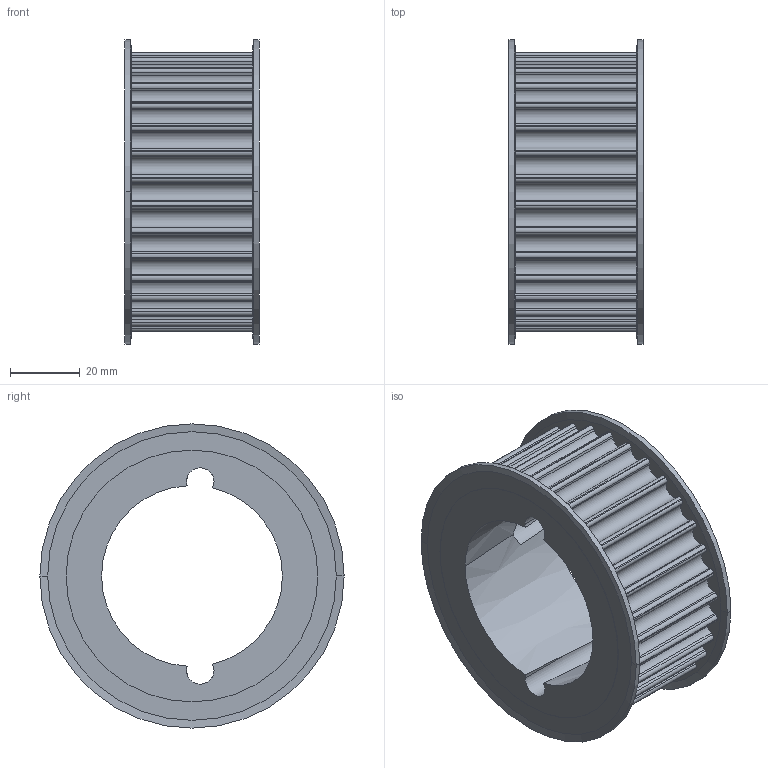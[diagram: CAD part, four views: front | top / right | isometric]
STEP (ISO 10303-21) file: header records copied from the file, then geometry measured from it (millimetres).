
FILE_DESCRIPTION( ( '' ), '1' );
FILE_NAME( 'C:/Users/Stangenbergd/Documents/CAD_Step/1/17477216.stp', '2021-10-19T10:18:10', ( '' ), ( '' ), ' ', ' ', ' ' );
FILE_SCHEMA( ( 'CONFIG_CONTROL_DESIGN' ) );
Length unit declared in the file: millimetre
Products named in the file (1): 1
Bounding box: 38.33 x 87 x 87 mm (x, y, z)
Volume: 85376.7 mm3; surface area: 30626.2 mm2
Topology: 1 solids, 1 shells, 228 faces, 656 edges, 434 vertices
Faces by surface type: cylinder 144, plane 70, cone 14
Entity records: 7764 total; most frequent: CARTESIAN_POINT 1459, DIRECTION 1402, ORIENTED_EDGE 1312, EDGE_CURVE 656, AXIS2_PLACEMENT_3D 529, VERTEX_POINT 434, LINE 344, VECTOR 344
